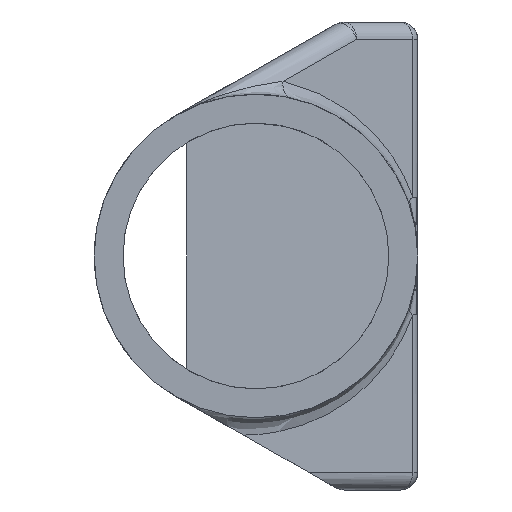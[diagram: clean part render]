
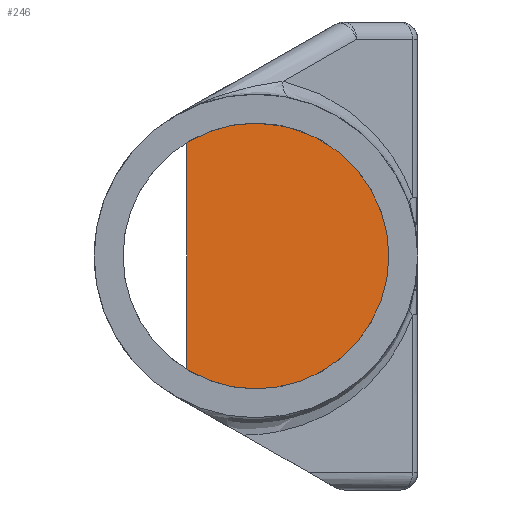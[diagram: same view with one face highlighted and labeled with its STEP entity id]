
A CAD part, left-side view. The second image highlights one B-rep face of the part: STEP entity #246.
In plain terms, the highlighted planar face has unit normal (-0.707, -0.707, 0).
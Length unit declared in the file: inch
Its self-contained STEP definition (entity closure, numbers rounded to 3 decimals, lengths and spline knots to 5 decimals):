
#128 = VERTEX_POINT ( 'NONE', #926 ) ;
#176 = VERTEX_POINT ( 'NONE', #820 ) ;
#246 = ADVANCED_FACE ( 'NONE', ( #1038 ), #1033, .T. ) ;
#247 = EDGE_LOOP ( 'NONE', ( #248, #250, #252, #253 ) ) ;
#248 = ORIENTED_EDGE ( 'NONE', *, *, #249, .F. ) ;
#249 = EDGE_CURVE ( 'NONE', #128, #176, #1203, .T. ) ;
#250 = ORIENTED_EDGE ( 'NONE', *, *, #353, .F. ) ;
#252 = ORIENTED_EDGE ( 'NONE', *, *, #336, .F. ) ;
#253 = ORIENTED_EDGE ( 'NONE', *, *, #258, .F. ) ;
#258 = EDGE_CURVE ( 'NONE', #176, #337, #1191, .T. ) ;
#336 = EDGE_CURVE ( 'NONE', #337, #338, #1528, .T. ) ;
#337 = VERTEX_POINT ( 'NONE', #1527 ) ;
#338 = VERTEX_POINT ( 'NONE', #1529 ) ;
#353 = EDGE_CURVE ( 'NONE', #338, #128, #1555, .T. ) ;
#820 = CARTESIAN_POINT ( 'NONE',  ( -2.15, 0.4, 0.19621 ) ) ;
#926 = CARTESIAN_POINT ( 'NONE',  ( -2.15, 0.4, -0.19621 ) ) ;
#1029 = DIRECTION ( 'NONE',  ( 0.707, -0.707, 0. ) ) ;
#1030 = DIRECTION ( 'NONE',  ( -0.707, -0.707, 0. ) ) ;
#1031 = CARTESIAN_POINT ( 'NONE',  ( -1.75, 0., -0.405 ) ) ;
#1032 = AXIS2_PLACEMENT_3D ( 'NONE', #1031, #1030, #1029 ) ;
#1033 = PLANE ( 'NONE',  #1032 ) ;
#1038 = FACE_OUTER_BOUND ( 'NONE', #247, .T. ) ;
#1187 = CARTESIAN_POINT ( 'NONE',  ( -2.03, 0.28, 0.23 ) ) ;
#1188 = CARTESIAN_POINT ( 'NONE',  ( -2.07262, 0.32262, 0.23 ) ) ;
#1189 = CARTESIAN_POINT ( 'NONE',  ( -2.11364, 0.36364, 0.21845 ) ) ;
#1190 = CARTESIAN_POINT ( 'NONE',  ( -2.15, 0.4, 0.19621 ) ) ;
#1191 =( BOUNDED_CURVE ( )  B_SPLINE_CURVE ( 3, ( #1190, #1189, #1188, #1187 ),
 .UNSPECIFIED., .F., .T. ) 
 B_SPLINE_CURVE_WITH_KNOTS ( ( 4, 4 ),
 ( 1.02191, 1.5708 ),
 .UNSPECIFIED. ) 
 CURVE ( )  GEOMETRIC_REPRESENTATION_ITEM ( )  RATIONAL_B_SPLINE_CURVE ( ( 1., 0.975, 0.975, 1. ) ) 
 REPRESENTATION_ITEM ( '' )  );
#1200 = DIRECTION ( 'NONE',  ( 0., 0., 1. ) ) ;
#1201 = VECTOR ( 'NONE', #1200, 39.37008 ) ;
#1202 = CARTESIAN_POINT ( 'NONE',  ( -2.15, 0.4, -0.405 ) ) ;
#1203 = LINE ( 'NONE', #1202, #1201 ) ;
#1525 = CARTESIAN_POINT ( 'NONE',  ( -1.57, -0.18, 0.23 ) ) ;
#1526 = CARTESIAN_POINT ( 'NONE',  ( -2.03, 0.28, 0.23 ) ) ;
#1527 = CARTESIAN_POINT ( 'NONE',  ( -2.03, 0.28, 0.23 ) ) ;
#1528 =( BOUNDED_CURVE ( )  B_SPLINE_CURVE ( 3, ( #1526, #1525, #1549, #1548 ),
 .UNSPECIFIED., .F., .T. ) 
 B_SPLINE_CURVE_WITH_KNOTS ( ( 4, 4 ),
 ( 1.5708, 4.71239 ),
 .UNSPECIFIED. ) 
 CURVE ( )  GEOMETRIC_REPRESENTATION_ITEM ( )  RATIONAL_B_SPLINE_CURVE ( ( 1., 0.333, 0.333, 1. ) ) 
 REPRESENTATION_ITEM ( '' )  );
#1529 = CARTESIAN_POINT ( 'NONE',  ( -2.03, 0.28, -0.23 ) ) ;
#1544 = CARTESIAN_POINT ( 'NONE',  ( -2.15, 0.4, -0.19621 ) ) ;
#1545 = CARTESIAN_POINT ( 'NONE',  ( -2.11364, 0.36364, -0.21845 ) ) ;
#1546 = CARTESIAN_POINT ( 'NONE',  ( -2.07262, 0.32262, -0.23 ) ) ;
#1548 = CARTESIAN_POINT ( 'NONE',  ( -2.03, 0.28, -0.23 ) ) ;
#1549 = CARTESIAN_POINT ( 'NONE',  ( -1.57, -0.18, -0.23 ) ) ;
#1554 = CARTESIAN_POINT ( 'NONE',  ( -2.03, 0.28, -0.23 ) ) ;
#1555 =( BOUNDED_CURVE ( )  B_SPLINE_CURVE ( 3, ( #1554, #1546, #1545, #1544 ),
 .UNSPECIFIED., .F., .T. ) 
 B_SPLINE_CURVE_WITH_KNOTS ( ( 4, 4 ),
 ( 4.71239, 5.26128 ),
 .UNSPECIFIED. ) 
 CURVE ( )  GEOMETRIC_REPRESENTATION_ITEM ( )  RATIONAL_B_SPLINE_CURVE ( ( 1., 0.975, 0.975, 1. ) ) 
 REPRESENTATION_ITEM ( '' )  );
